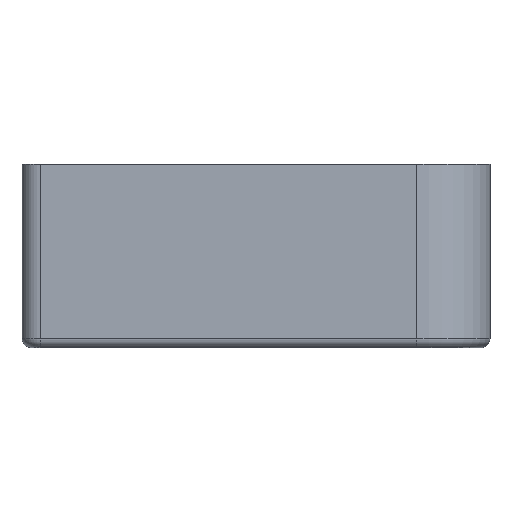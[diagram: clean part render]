
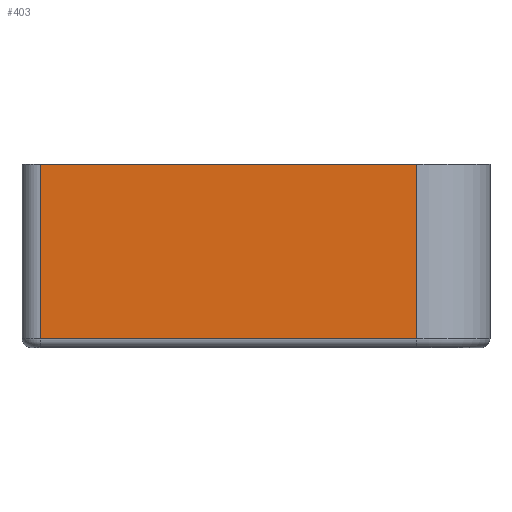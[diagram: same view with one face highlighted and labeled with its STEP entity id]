
A CAD part, left-side view. The second image highlights one B-rep face of the part: STEP entity #403.
In plain terms, the highlighted planar face has unit normal (-1, 0, 0).
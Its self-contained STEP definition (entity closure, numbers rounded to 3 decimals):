
#8 = VECTOR ( 'NONE', #1768, 1000. ) ;
#9 = LINE ( 'NONE', #1769, #8 ) ;
#19 = VECTOR ( 'NONE', #1565, 1000. ) ;
#189 = FACE_OUTER_BOUND ( 'NONE', #1007, .T. ) ;
#199 = LINE ( 'NONE', #1582, #19 ) ;
#243 = VECTOR ( 'NONE', #1747, 1000. ) ;
#280 = LINE ( 'NONE', #1717, #293 ) ;
#293 = VECTOR ( 'NONE', #1740, 1000. ) ;
#330 = LINE ( 'NONE', #1739, #243 ) ;
#403 = ADVANCED_FACE ( 'NONE', ( #189 ), #626, .F. ) ;
#449 = DIRECTION ( 'NONE',  ( 0., 0., -1. ) ) ;
#534 = VERTEX_POINT ( 'NONE', #1626 ) ;
#543 = DIRECTION ( 'NONE',  ( 1., 0., 0. ) ) ;
#547 = VERTEX_POINT ( 'NONE', #1620 ) ;
#626 = PLANE ( 'NONE',  #2042 ) ;
#679 = CARTESIAN_POINT ( 'NONE',  ( -20., 12.75, 10. ) ) ;
#719 = VERTEX_POINT ( 'NONE', #1694 ) ;
#766 = VERTEX_POINT ( 'NONE', #1817 ) ;
#807 = ORIENTED_EDGE ( 'NONE', *, *, #2000, .T. ) ;
#1007 = EDGE_LOOP ( 'NONE', ( #1051, #1096, #807, #1052 ) ) ;
#1051 = ORIENTED_EDGE ( 'NONE', *, *, #1994, .T. ) ;
#1052 = ORIENTED_EDGE ( 'NONE', *, *, #1867, .F. ) ;
#1096 = ORIENTED_EDGE ( 'NONE', *, *, #1991, .T. ) ;
#1565 = DIRECTION ( 'NONE',  ( 0., -1., 0. ) ) ;
#1582 = CARTESIAN_POINT ( 'NONE',  ( -20., 12.75, 10. ) ) ;
#1620 = CARTESIAN_POINT ( 'NONE',  ( -20., -8.75, 0.5 ) ) ;
#1626 = CARTESIAN_POINT ( 'NONE',  ( -20., -8.75, 10. ) ) ;
#1694 = CARTESIAN_POINT ( 'NONE',  ( -20., 11.75, 10. ) ) ;
#1717 = CARTESIAN_POINT ( 'NONE',  ( -20., -8.75, 10. ) ) ;
#1739 = CARTESIAN_POINT ( 'NONE',  ( -20., 11.75, 10. ) ) ;
#1740 = DIRECTION ( 'NONE',  ( 0., 0., 1. ) ) ;
#1747 = DIRECTION ( 'NONE',  ( 0., 0., -1. ) ) ;
#1768 = DIRECTION ( 'NONE',  ( 0., -1., 0. ) ) ;
#1769 = CARTESIAN_POINT ( 'NONE',  ( -20., 12.75, 0.5 ) ) ;
#1817 = CARTESIAN_POINT ( 'NONE',  ( -20., 11.75, 0.5 ) ) ;
#1867 = EDGE_CURVE ( 'NONE', #719, #534, #199, .T. ) ;
#1991 = EDGE_CURVE ( 'NONE', #766, #547, #9, .T. ) ;
#1994 = EDGE_CURVE ( 'NONE', #719, #766, #330, .T. ) ;
#2000 = EDGE_CURVE ( 'NONE', #547, #534, #280, .T. ) ;
#2042 = AXIS2_PLACEMENT_3D ( 'NONE', #679, #543, #449 ) ;
